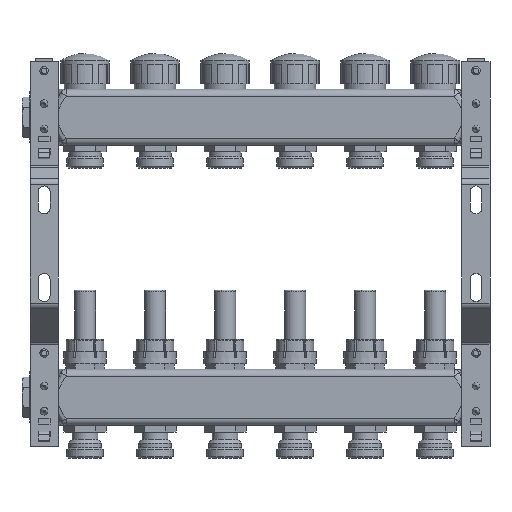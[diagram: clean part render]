
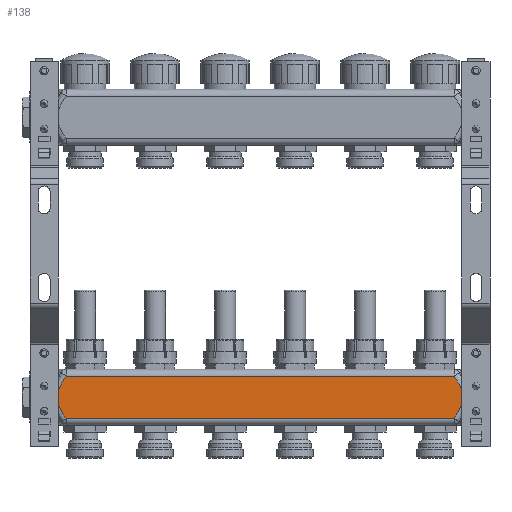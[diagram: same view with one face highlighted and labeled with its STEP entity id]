
A CAD part, front view. The second image highlights one B-rep face of the part: STEP entity #138.
In plain terms, the highlighted planar face has unit normal (0, -1, 0).
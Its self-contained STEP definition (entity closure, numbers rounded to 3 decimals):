
#138=ADVANCED_FACE('',(#2721),#2723,.T.);
#2721=FACE_BOUND('',#2722,.T.);
#2722=EDGE_LOOP('',(#14728,#14729,#14730,#14731));
#2723=PLANE('',#2724);
#2724=AXIS2_PLACEMENT_3D('',#2725,#2726,#2727);
#2725=CARTESIAN_POINT('',(1.7,46.5,-219.65));
#2726=DIRECTION('',(0.,-1.,0.));
#2727=DIRECTION('',(0.,0.,-1.));
#14728=ORIENTED_EDGE('',*,*,#21659,.T.);
#14729=ORIENTED_EDGE('',*,*,#21660,.F.);
#14730=ORIENTED_EDGE('',*,*,#21380,.T.);
#14731=ORIENTED_EDGE('',*,*,#21661,.T.);
#21380=EDGE_CURVE('',#25080,#25078,#25081,.T.);
#21659=EDGE_CURVE('',#25549,#25550,#25551,.T.);
#21660=EDGE_CURVE('',#25080,#25550,#25552,.T.);
#21661=EDGE_CURVE('',#25078,#25549,#25553,.T.);
#25078=VERTEX_POINT('',#33057);
#25080=VERTEX_POINT('',#33062);
#25081=B_SPLINE_CURVE_WITH_KNOTS('',3,
(#33063,#33064,#33065,#33066,#33067,#33068,#33069,#33070,#33071,#33072,#33073,#33074,
#33075,#33076,#33077,#33078,#33079,#33080,#33081,#33082,#33083,#33084,#33085,#33086),
.UNSPECIFIED.,.F.,.F.,
(4,1,1,1,1,1,1,1,1,1,1,1,1,1,1,1,1,1,1,1,1,4),
(0.,0.066,0.123,0.171,0.221,0.271,
0.322,0.369,0.413,0.45,0.485,
0.521,0.557,0.597,0.64,0.687,
0.738,0.789,0.841,0.891,0.945,
1.),
.UNSPECIFIED.);
#25549=VERTEX_POINT('',#35479);
#25550=VERTEX_POINT('',#35480);
#25551=B_SPLINE_CURVE_WITH_KNOTS('',3,
(#35481,#35482,#35483,#35484,#35485,#35486,#35487,#35488,#35489,#35490,#35491,#35492,
#35493,#35494,#35495,#35496,#35497,#35498,#35499,#35500,#35501,#35502,#35503,#35504),
.UNSPECIFIED.,.F.,.F.,
(4,1,1,1,1,1,1,1,1,1,1,1,1,1,1,1,1,1,1,1,1,4),
(0.,0.066,0.123,0.171,0.221,0.271,
0.322,0.369,0.413,0.45,0.485,
0.521,0.557,0.597,0.64,0.687,
0.738,0.789,0.841,0.891,0.945,
1.),
.UNSPECIFIED.);
#25552=LINE('',#35505,#35506);
#25553=LINE('',#35508,#35509);
#33057=CARTESIAN_POINT('',(25.634,46.5,-254.65));
#33062=CARTESIAN_POINT('',(25.634,46.5,-224.65));
#33063=CARTESIAN_POINT('',(25.634,46.5,-224.65));
#33064=CARTESIAN_POINT('',(25.196,46.5,-225.269));
#33065=CARTESIAN_POINT('',(24.401,46.5,-226.43));
#33066=CARTESIAN_POINT('',(23.362,46.5,-228.064));
#33067=CARTESIAN_POINT('',(22.485,46.5,-229.562));
#33068=CARTESIAN_POINT('',(21.717,46.5,-231.008));
#33069=CARTESIAN_POINT('',(21.012,46.5,-232.516));
#33070=CARTESIAN_POINT('',(20.421,46.5,-234.022));
#33071=CARTESIAN_POINT('',(19.968,46.5,-235.487));
#33072=CARTESIAN_POINT('',(19.669,46.5,-236.817));
#33073=CARTESIAN_POINT('',(19.494,46.5,-238.033));
#33074=CARTESIAN_POINT('',(19.414,46.5,-239.176));
#33075=CARTESIAN_POINT('',(19.421,46.5,-240.315));
#33076=CARTESIAN_POINT('',(19.518,46.5,-241.495));
#33077=CARTESIAN_POINT('',(19.72,46.5,-242.746));
#33078=CARTESIAN_POINT('',(20.047,46.5,-244.096));
#33079=CARTESIAN_POINT('',(20.52,46.5,-245.553));
#33080=CARTESIAN_POINT('',(21.134,46.5,-247.064));
#33081=CARTESIAN_POINT('',(21.87,46.5,-248.596));
#33082=CARTESIAN_POINT('',(22.685,46.5,-250.094));
#33083=CARTESIAN_POINT('',(23.586,46.5,-251.598));
#33084=CARTESIAN_POINT('',(24.565,46.5,-253.112));
#33085=CARTESIAN_POINT('',(25.27,46.5,-254.135));
#33086=CARTESIAN_POINT('',(25.634,46.5,-254.65));
#35479=CARTESIAN_POINT('',(302.766,46.5,-254.65));
#35480=CARTESIAN_POINT('',(302.766,46.5,-224.65));
#35481=CARTESIAN_POINT('',(302.766,46.5,-254.65));
#35482=CARTESIAN_POINT('',(303.204,46.5,-254.031));
#35483=CARTESIAN_POINT('',(303.999,46.5,-252.87));
#35484=CARTESIAN_POINT('',(305.038,46.5,-251.236));
#35485=CARTESIAN_POINT('',(305.915,46.5,-249.738));
#35486=CARTESIAN_POINT('',(306.683,46.5,-248.292));
#35487=CARTESIAN_POINT('',(307.388,46.5,-246.784));
#35488=CARTESIAN_POINT('',(307.979,46.5,-245.278));
#35489=CARTESIAN_POINT('',(308.432,46.5,-243.813));
#35490=CARTESIAN_POINT('',(308.731,46.5,-242.483));
#35491=CARTESIAN_POINT('',(308.906,46.5,-241.267));
#35492=CARTESIAN_POINT('',(308.986,46.5,-240.124));
#35493=CARTESIAN_POINT('',(308.979,46.5,-238.985));
#35494=CARTESIAN_POINT('',(308.882,46.5,-237.805));
#35495=CARTESIAN_POINT('',(308.68,46.5,-236.554));
#35496=CARTESIAN_POINT('',(308.353,46.5,-235.204));
#35497=CARTESIAN_POINT('',(307.88,46.5,-233.747));
#35498=CARTESIAN_POINT('',(307.266,46.5,-232.236));
#35499=CARTESIAN_POINT('',(306.53,46.5,-230.704));
#35500=CARTESIAN_POINT('',(305.715,46.5,-229.206));
#35501=CARTESIAN_POINT('',(304.814,46.5,-227.702));
#35502=CARTESIAN_POINT('',(303.835,46.5,-226.188));
#35503=CARTESIAN_POINT('',(303.13,46.5,-225.165));
#35504=CARTESIAN_POINT('',(302.766,46.5,-224.65));
#35505=CARTESIAN_POINT('',(25.634,46.5,-224.65));
#35506=VECTOR('',#35507,1.);
#35507=DIRECTION('',(1.,0.,0.));
#35508=CARTESIAN_POINT('',(25.634,46.5,-254.65));
#35509=VECTOR('',#35510,1.);
#35510=DIRECTION('',(1.,0.,0.));
